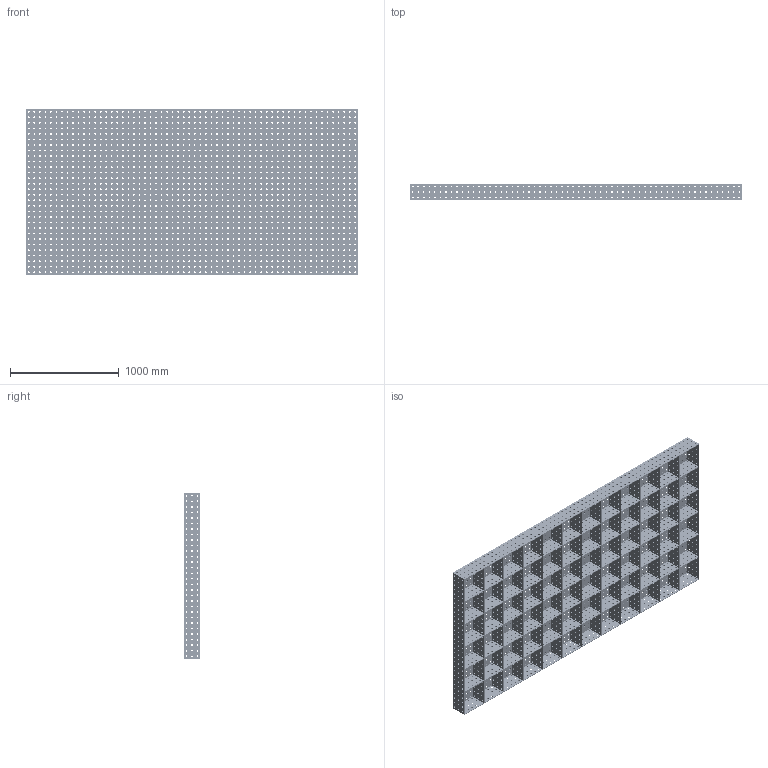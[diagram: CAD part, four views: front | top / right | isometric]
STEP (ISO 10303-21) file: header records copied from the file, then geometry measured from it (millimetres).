
FILE_DESCRIPTION (( 'STEP AP203' ), '1' );
FILE_NAME ('60x120.STEP', '2025-06-10T15:22:41', ( '' ), ( '' ), 'SwSTEP 2.0', 'SolidWorks 2023', '' );
FILE_SCHEMA (( 'CONFIG_CONTROL_DESIGN' ));
Products named in the file (1): 60x120
Bounding box: 3048 x 152.4 x 1524 mm (x, y, z)
Volume: 65488938.4 mm3; surface area: 20768935.4 mm2
Topology: 1 solids, 1 shells, 8826 faces, 26256 edges, 17504 vertices
Faces by surface type: cylinder 8460, plane 366
Entity records: 323479 total; most frequent: DIRECTION 60830, CARTESIAN_POINT 52587, ORIENTED_EDGE 52512, EDGE_CURVE 26256, AXIS2_PLACEMENT_3D 25747, VERTEX_POINT 17504, EDGE_LOOP 17358, CIRCLE 16920
